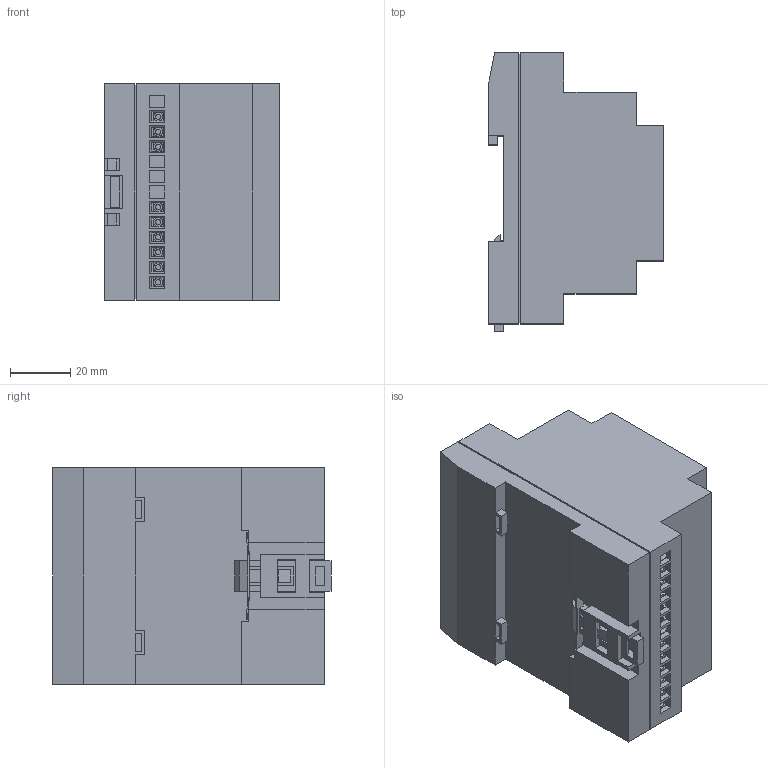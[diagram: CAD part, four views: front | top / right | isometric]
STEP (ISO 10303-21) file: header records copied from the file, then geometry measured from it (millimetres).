
FILE_DESCRIPTION (( 'STEP AP214' ), '1' );
FILE_NAME ('3D ìîäåëü ÓÒ1-Ä.STEP', '2015-08-11T14:03:54', ( '' ), ( '' ), 'SwSTEP 2.0', 'SolidWorks 2013', '' );
FILE_SCHEMA (( 'AUTOMOTIVE_DESIGN' ));
Length unit declared in the file: millimetre
Products named in the file (5): Øèëüäèê_ÓÒ1-Ä; Êëåììà íèçêàÿ_11õ8õ5ìì; Çàùåëêà(Ä); Êîðïóñ 2ÒÐÌ1-Ä; 3D ìîäåëü ÓÒ1-Ä
Assembly tree (18 placements, depth 2):
  3D ìîäåëü ÓÒ1-Ä
    Êîðïóñ 2ÒÐÌ1-Ä
    Çàùåëêà(Ä)
    Êëåììà íèçêàÿ_11õ8õ5ìì  x15
    Øèëüäèê_ÓÒ1-Ä
Bounding box: 58 x 92.3 x 72 mm (x, y, z)
Volume: 271820.6 mm3; surface area: 53075.4 mm2
Topology: 31 solids, 31 shells, 1570 faces, 4034 edges, 2668 vertices
Faces by surface type: plane 1220, cylinder 175, bspline 175
Entity records: 39508 total; most frequent: CARTESIAN_POINT 7575, ORIENTED_EDGE 5156, DIRECTION 4015, EDGE_CURVE 2578, VECTOR 2095, LINE 2095, VERTEX_POINT 1716, EDGE_LOOP 1180
